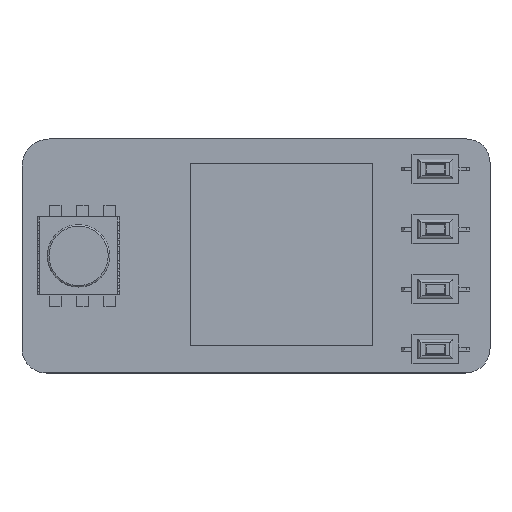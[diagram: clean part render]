
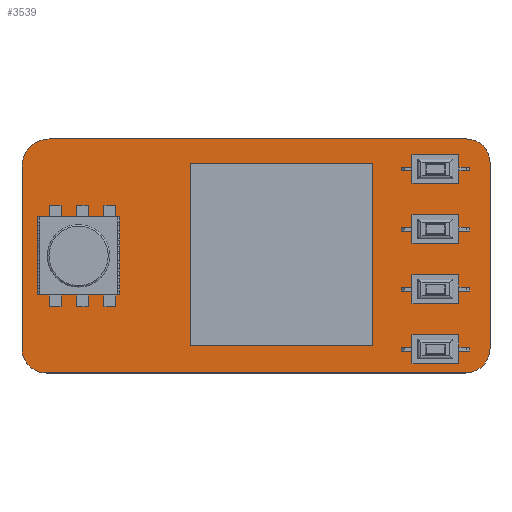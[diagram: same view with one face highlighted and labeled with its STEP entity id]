
A CAD part, top view. The second image highlights one B-rep face of the part: STEP entity #3539.
In plain terms, the highlighted planar face has unit normal (0, 0, 1).
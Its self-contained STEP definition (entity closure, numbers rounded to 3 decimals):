
#3161=FACE_BOUND('',#5466,.T.);
#3162=FACE_BOUND('',#5467,.T.);
#3163=FACE_BOUND('',#5468,.T.);
#3364=CIRCLE('',#15302,3.476);
#3366=CIRCLE('',#15306,3.018);
#3368=CIRCLE('',#15310,3.158);
#3370=CIRCLE('',#15314,3.097);
#3372=CIRCLE('',#15317,0.45);
#3374=CIRCLE('',#15320,0.45);
#3539=ADVANCED_FACE('',(#3161,#3162,#3163),#4261,.T.);
#4261=PLANE('',#15323);
#5466=EDGE_LOOP('',(#6299,#6300,#6301,#6302,#6303,#6304,#6305,#6306));
#5467=EDGE_LOOP('',(#6307));
#5468=EDGE_LOOP('',(#6308));
#6299=ORIENTED_EDGE('',*,*,#10927,.F.);
#6300=ORIENTED_EDGE('',*,*,#10924,.F.);
#6301=ORIENTED_EDGE('',*,*,#10921,.F.);
#6302=ORIENTED_EDGE('',*,*,#10918,.F.);
#6303=ORIENTED_EDGE('',*,*,#10915,.F.);
#6304=ORIENTED_EDGE('',*,*,#10912,.F.);
#6305=ORIENTED_EDGE('',*,*,#10909,.F.);
#6306=ORIENTED_EDGE('',*,*,#10906,.F.);
#6307=ORIENTED_EDGE('',*,*,#10929,.F.);
#6308=ORIENTED_EDGE('',*,*,#10931,.F.);
#9758=VERTEX_POINT('',#19150);
#9759=VERTEX_POINT('',#19152);
#9761=VERTEX_POINT('',#19158);
#9763=VERTEX_POINT('',#19164);
#9765=VERTEX_POINT('',#19170);
#9767=VERTEX_POINT('',#19176);
#9769=VERTEX_POINT('',#19182);
#9771=VERTEX_POINT('',#19188);
#9773=VERTEX_POINT('',#19197);
#9775=VERTEX_POINT('',#19202);
#10906=EDGE_CURVE('',#9758,#9759,#12653,.T.);
#10909=EDGE_CURVE('',#9759,#9761,#3364,.T.);
#10912=EDGE_CURVE('',#9761,#9763,#12657,.T.);
#10915=EDGE_CURVE('',#9763,#9765,#3366,.T.);
#10918=EDGE_CURVE('',#9765,#9767,#12661,.T.);
#10921=EDGE_CURVE('',#9767,#9769,#3368,.T.);
#10924=EDGE_CURVE('',#9769,#9771,#12665,.T.);
#10927=EDGE_CURVE('',#9771,#9758,#3370,.T.);
#10929=EDGE_CURVE('',#9773,#9773,#3372,.T.);
#10931=EDGE_CURVE('',#9775,#9775,#3374,.T.);
#12653=LINE('',#19151,#13977);
#12657=LINE('',#19163,#13981);
#12661=LINE('',#19175,#13985);
#12665=LINE('',#19187,#13989);
#13977=VECTOR('',#16144,1.);
#13981=VECTOR('',#16156,1.);
#13985=VECTOR('',#16168,1.);
#13989=VECTOR('',#16180,1.);
#15302=AXIS2_PLACEMENT_3D('',#19157,#16149,#16150);
#15306=AXIS2_PLACEMENT_3D('',#19169,#16161,#16162);
#15310=AXIS2_PLACEMENT_3D('',#19181,#16173,#16174);
#15314=AXIS2_PLACEMENT_3D('',#19193,#16185,#16186);
#15317=AXIS2_PLACEMENT_3D('',#19196,#16191,#16192);
#15320=AXIS2_PLACEMENT_3D('',#19201,#16197,#16198);
#15323=AXIS2_PLACEMENT_3D('',#19206,#16203,#16204);
#16144=DIRECTION('',(0.,1.,0.));
#16149=DIRECTION('',(0.,0.,-1.));
#16150=DIRECTION('',(1.,0.,0.));
#16156=DIRECTION('',(1.,0.,0.));
#16161=DIRECTION('',(0.,0.,-1.));
#16162=DIRECTION('',(1.,0.,0.));
#16168=DIRECTION('',(0.,-1.,0.));
#16173=DIRECTION('',(0.,0.,-1.));
#16174=DIRECTION('',(1.,0.,0.));
#16180=DIRECTION('',(-1.,0.,0.));
#16185=DIRECTION('',(0.,0.,-1.));
#16186=DIRECTION('',(1.,0.,0.));
#16191=DIRECTION('',(0.,0.,1.));
#16192=DIRECTION('',(1.,0.,0.));
#16197=DIRECTION('',(0.,0.,1.));
#16198=DIRECTION('',(1.,0.,0.));
#16203=DIRECTION('',(0.,0.,1.));
#16204=DIRECTION('',(-1.,0.,0.));
#19150=CARTESIAN_POINT('',(0.252,3.4,0.411));
#19151=CARTESIAN_POINT('',(0.252,3.129,0.411));
#19152=CARTESIAN_POINT('',(0.252,26.828,0.411));
#19157=CARTESIAN_POINT('',(3.728,26.828,0.411));
#19158=CARTESIAN_POINT('',(3.728,30.304,0.411));
#19163=CARTESIAN_POINT('',(3.496,30.304,0.411));
#19164=CARTESIAN_POINT('',(57.234,30.304,0.411));
#19169=CARTESIAN_POINT('',(57.234,27.285,0.411));
#19170=CARTESIAN_POINT('',(60.252,27.285,0.411));
#19175=CARTESIAN_POINT('',(60.252,27.559,0.411));
#19176=CARTESIAN_POINT('',(60.252,3.462,0.411));
#19181=CARTESIAN_POINT('',(57.094,3.462,0.411));
#19182=CARTESIAN_POINT('',(57.094,0.304,0.411));
#19187=CARTESIAN_POINT('',(57.264,0.304,0.411));
#19188=CARTESIAN_POINT('',(3.349,0.304,0.411));
#19193=CARTESIAN_POINT('',(3.349,3.4,0.411));
#19196=CARTESIAN_POINT('',(9.185,13.04,0.411));
#19197=CARTESIAN_POINT('',(9.635,13.04,0.411));
#19201=CARTESIAN_POINT('',(9.185,17.44,0.411));
#19202=CARTESIAN_POINT('',(9.635,17.44,0.411));
#19206=CARTESIAN_POINT('',(0.065,3.129,0.411));
